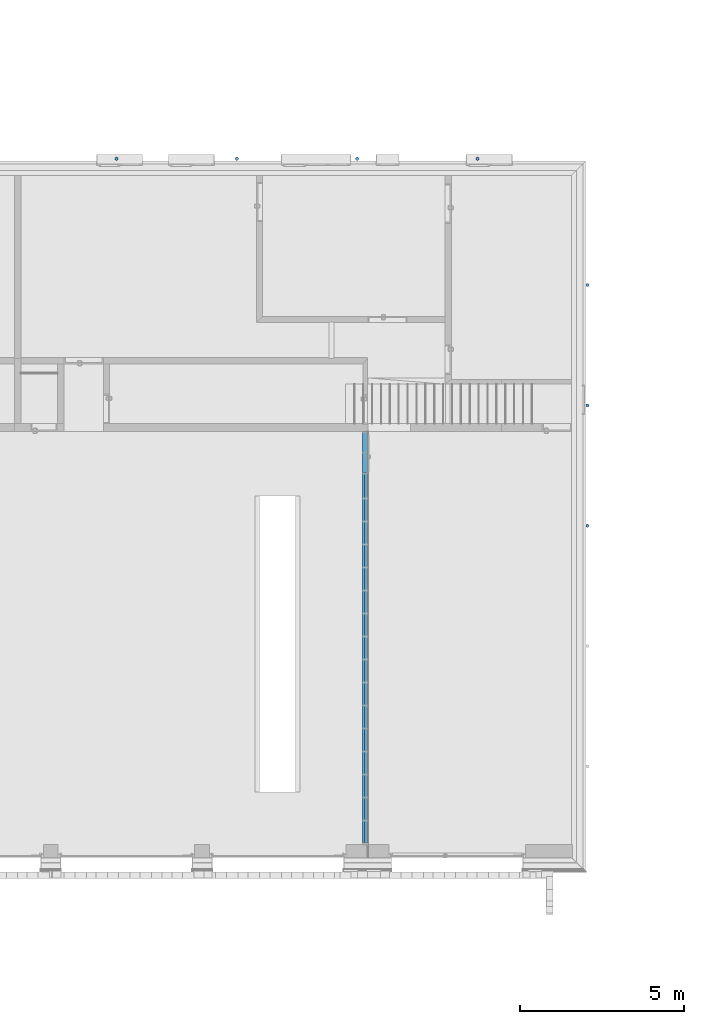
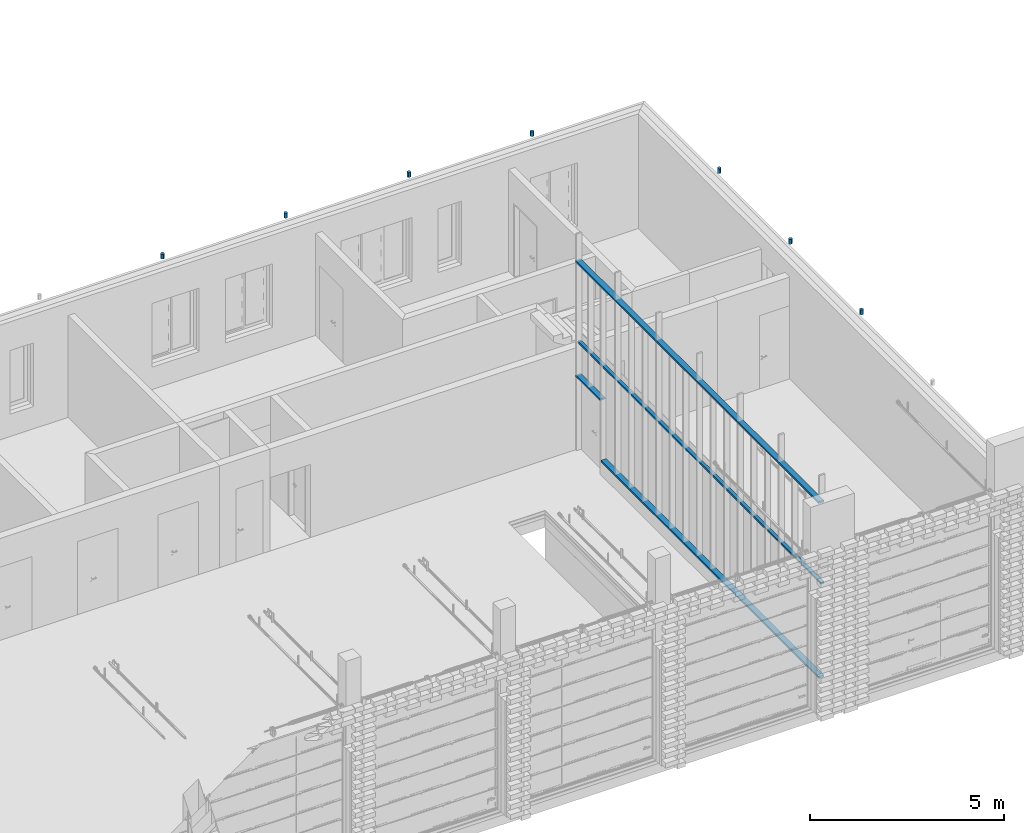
# One storey, part 5 of 62: 7 columns, 4 beams.
"""IFC2X3 building model written with IfcOpenShell, lengths in millimetres."""

from ifc_helpers import new_model, entity, si_unit, converted_unit, derived_unit, money_unit, direction, frame, frame_2d, origin_with_axes, origin_2d_with_axis, place, context, subcontext, project, spatial, rectangle, circle, extrude, material, type_object, element, save


model = new_model("IFC2X3")

# Units and contexts
model_context = context("Model", 3, precision=0.01, world=origin_with_axes(), true_north=direction((0.0, 1.0)))
body_context = subcontext(model_context, "Body", "Model", "MODEL_VIEW")
ifc_project = project(units=[si_unit("LENGTHUNIT", "METRE", prefix="MILLI"), si_unit("AREAUNIT", "SQUARE_METRE"), si_unit("VOLUMEUNIT", "CUBIC_METRE"), converted_unit("PLANEANGLEUNIT", "DEGREE", entity("IfcPlaneAngleMeasure", 0.0174532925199), si_unit("PLANEANGLEUNIT", "RADIAN"), dimensions=[0, 0, 0, 0, 0, 0, 0]), si_unit("SOLIDANGLEUNIT", "STERADIAN"), money_unit("EUR"), converted_unit("TIMEUNIT", "Year", entity("IfcTimeMeasure", 31556926.0), si_unit("TIMEUNIT", "SECOND"), dimensions=[0, 0, 1, 0, 0, 0, 0]), si_unit("MASSUNIT", "GRAM", prefix="KILO"), si_unit("THERMODYNAMICTEMPERATUREUNIT", "DEGREE_CELSIUS"), si_unit("LUMINOUSINTENSITYUNIT", "LUMEN"), si_unit("ENERGYUNIT", "JOULE", prefix="MEGA"), derived_unit("THERMALCONDUCTANCEUNIT", [(si_unit("POWERUNIT", "WATT"), 1), (si_unit("LENGTHUNIT", "METRE"), -1), (si_unit("THERMODYNAMICTEMPERATUREUNIT", "KELVIN"), -1)]), derived_unit("SPECIFICHEATCAPACITYUNIT", [(si_unit("ENERGYUNIT", "JOULE"), 1), (si_unit("MASSUNIT", "GRAM", prefix="KILO"), -1), (si_unit("THERMODYNAMICTEMPERATUREUNIT", "KELVIN"), -1)]), derived_unit("MASSDENSITYUNIT", [(si_unit("MASSUNIT", "GRAM", prefix="KILO"), 1), (si_unit("VOLUMEUNIT", "CUBIC_METRE"), -1)])], contexts=[model_context])

# Site, building, storey
site_placement = place(None, origin_with_axes())
site = spatial("IfcSite", under=ifc_project, at=site_placement, Name="KIRDE 14, ELVA", CompositionType="ELEMENT")
building_placement = place(site_placement, origin_with_axes())
building = spatial("IfcBuilding", under=site, at=building_placement, Name="PPA ja Päästeameti ühishoone", CompositionType="ELEMENT")
storey_placement = place(building_placement, origin_with_axes())
storey = spatial("IfcBuildingStorey", under=building, at=storey_placement, Name="Esimene korrus", CompositionType="ELEMENT", Elevation=0.0)

# Columns
ifc_material_1 = material(Name="SBS Rullmaterjal")
column_type = type_object("IfcColumnType", Name="SBS Rullmaterjal D100", PredefinedType="COLUMN")
for number, where, z_axis, x_axis, name in (
    (1, (37182.3757691, 21254.7181834, 3613.05755188), (0.0, 0.0, 1.0), (-1.0, 1.98808006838e-08, 0.0), "RB post"),
    (2, (40524.705031, 10094.2037349, 3613.05755188), (0.0, 0.0, 1.0), (-2.0299477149e-08, 1.0, 0.0), "RB post"),
):
    element("IfcColumn", number, at=place(storey_placement, frame(where, z_axis=z_axis, x_axis=x_axis)), inside=storey, type_object=column_type, material=ifc_material_1, Name=name, ObjectType="COLUMN", context=body_context, shape_type="SweptSolid", body=[
        extrude(circle(Radius=50.0, at=origin_2d_with_axis()), frame((0.0, 0.0, 0.0), z_axis=(0.0, 0.0, -1.0), x_axis=(-1.0, 0.0, 0.0)), (0.0, 0.0, -1.0), 150.0),
    ])
column_1_placement = place(storey_placement, frame((40524.7048824, 17414.2037349, 3613.05755188), z_axis=(0.0, 0.0, 1.0), x_axis=(-2.02994425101e-08, 1.0, 0.0)))
element("IfcColumn", 3, at=column_1_placement, inside=storey, type_object=column_type, material=ifc_material_1, Name="RB post", ObjectType="COLUMN", context=body_context, shape_type="SweptSolid", body=[
    extrude(circle(Radius=50.0, at=origin_2d_with_axis()), origin_with_axes(), (0.0, 0.0, 1.0), 150.0),
])
column_2_placement = place(storey_placement, frame((26202.3757691, 21254.7181788, 3613.05755188), z_axis=(0.0, 0.0, 1.0), x_axis=(-1.0, 1.98808006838e-08, 0.0)))
element("IfcColumn", 4, at=column_2_placement, inside=storey, type_object=column_type, material=ifc_material_1, Name="RB post", ObjectType="COLUMN", context=body_context, shape_type="SweptSolid", body=[
    extrude(circle(Radius=50.0, at=origin_2d_with_axis()), frame((0.0, 0.0, 0.0), z_axis=(0.0, 0.0, -1.0), x_axis=(-1.0, 0.0, 0.0)), (0.0, 0.0, -1.0), 150.0),
])
column_3_placement = place(storey_placement, frame((40524.7048824, 13754.2037349, 3613.05755188), z_axis=(0.0, 0.0, 1.0), x_axis=(-2.02994425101e-08, 1.0, 0.0)))
element("IfcColumn", 5, at=column_3_placement, inside=storey, type_object=column_type, material=ifc_material_1, Name="RB post", ObjectType="COLUMN", context=body_context, shape_type="SweptSolid", body=[
    extrude(circle(Radius=50.0, at=origin_2d_with_axis()), origin_with_axes(), (0.0, 0.0, 1.0), 150.0),
])
for number, where, z_axis, x_axis, name in (
    (6, (33522.3757691, 21254.7181819, 3613.05755188), (0.0, 0.0, 1.0), (-1.0, 1.98808006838e-08, 0.0), "RB post"),
    (7, (29862.3757691, 21254.7181804, 3613.05755188), (0.0, 0.0, 1.0), (-1.0, 1.98808006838e-08, 0.0), "RB post"),
):
    element("IfcColumn", number, at=place(storey_placement, frame(where, z_axis=z_axis, x_axis=x_axis)), inside=storey, type_object=column_type, material=ifc_material_1, Name=name, ObjectType="COLUMN", context=body_context, shape_type="SweptSolid", body=[
        extrude(circle(Radius=50.0, at=origin_2d_with_axis()), frame((0.0, 0.0, 0.0), z_axis=(0.0, 0.0, -1.0), x_axis=(-1.0, 0.0, 0.0)), (0.0, 0.0, -1.0), 150.0),
    ])

# Beams
ifc_material_2 = material(Name="GENERIC - STRUCTURAL")
beam_type_1 = type_object("IfcBeamType", Name="GENERIC - STRUCTURAL 160 x 50", PredefinedType="BEAM")
beam_1_placement = place(storey_placement, frame((33765.0006944, 11710.0005795, 2350.0), z_axis=(0.0, 0.0, 1.0), x_axis=(1.0, 0.0, 0.0)))
element("IfcBeam", 8, at=beam_1_placement, inside=storey, type_object=beam_type_1, material=ifc_material_2, Name="LIIMPUITPRUSS", ObjectType="BEAM", context=body_context, shape_type="SweptSolid", body=[
    extrude(rectangle(XDim=50.0, YDim=160.0, at=frame_2d((-25.0, 0.0), x_axis=(1.0, 0.0))), frame((0.0, 0.0, 0.0), z_axis=(0.0, 1.0, 0.0), x_axis=(0.0, 0.0, 1.0)), (0.0, 0.0, 1.0), 1250.00000003),
])
beam_type_2 = type_object("IfcBeamType", Name="GENERIC - STRUCTURAL 160 x 60", PredefinedType="BEAM")
beam_2_placement = place(storey_placement, frame((33765.0006991, 448.999806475, 5950.0), z_axis=(0.0, 0.0, 1.0), x_axis=(1.0, 0.0, 0.0)))
element("IfcBeam", 9, at=beam_2_placement, inside=storey, type_object=beam_type_2, material=ifc_material_2, Name="LIIMPUITPRUSS", ObjectType="BEAM", context=body_context, shape_type="SweptSolid", body=[
    extrude(rectangle(XDim=60.0, YDim=160.0, at=frame_2d((-30.0, 0.0), x_axis=(1.0, 0.0))), frame((0.0, 0.0, 0.0), z_axis=(0.0, 1.0, 0.0), x_axis=(0.0, 0.0, 1.0)), (0.0, 0.0, 1.0), 12511.000773),
])
beam_3_placement = place(storey_placement, frame((33765.0006991, 448.999806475, 460.0), z_axis=(0.0, 0.0, 1.0), x_axis=(1.0, 0.0, 0.0)))
element("IfcBeam", 10, at=beam_3_placement, inside=storey, type_object=beam_type_2, material=ifc_material_2, Name="LIIMPUITPRUSS", ObjectType="BEAM", context=body_context, shape_type="SweptSolid", body=[
    extrude(rectangle(XDim=60.0, YDim=160.0, at=frame_2d((-30.0, 0.0), x_axis=(1.0, 0.0))), frame((0.0, 0.0, 0.0), z_axis=(0.0, 1.0, 0.0), x_axis=(0.0, 0.0, 1.0)), (0.0, 0.0, 1.0), 11211.000773),
])
beam_type_3 = type_object("IfcBeamType", Name="GENERIC - STRUCTURAL 100 x 60", PredefinedType="BEAM")
beam_4_placement = place(storey_placement, frame((33795.0006989, 448.999807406, 3400.0), z_axis=(0.0, 0.0, 1.0), x_axis=(1.0, 0.0, 0.0)))
element("IfcBeam", 11, at=beam_4_placement, inside=storey, type_object=beam_type_3, material=ifc_material_2, Name="LIIMPUITPRUSS", ObjectType="BEAM", context=body_context, shape_type="SweptSolid", body=[
    extrude(rectangle(XDim=60.0, YDim=100.0, at=frame_2d((-30.0, 0.0), x_axis=(1.0, 0.0))), frame((0.0, 0.0, 0.0), z_axis=(0.0, 1.0, 0.0), x_axis=(0.0, 0.0, 1.0)), (0.0, 0.0, 1.0), 12511.0007586),
])

save(model, "model.ifc")
